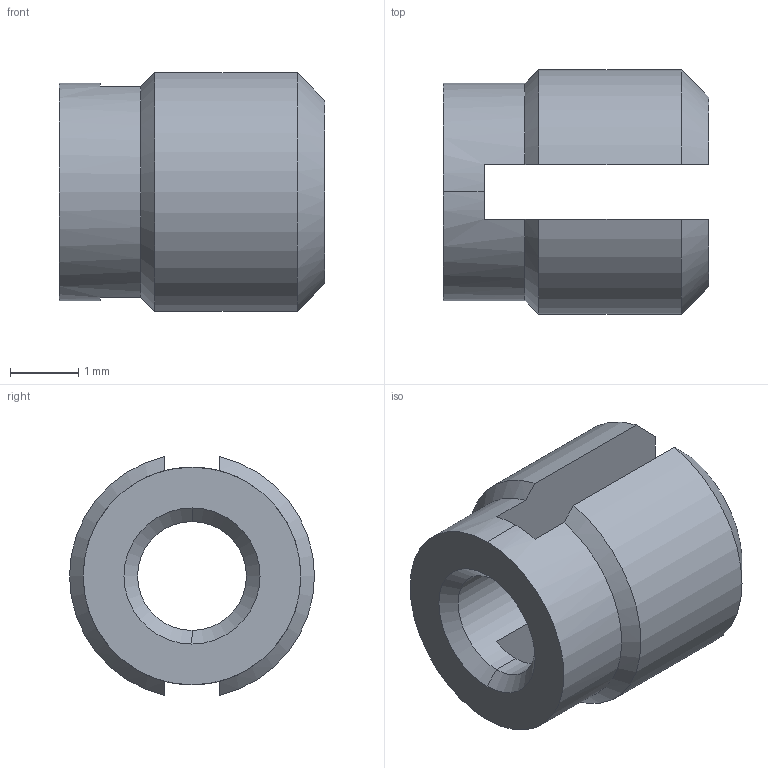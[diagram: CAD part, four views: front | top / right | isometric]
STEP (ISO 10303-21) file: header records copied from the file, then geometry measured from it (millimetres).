
FILE_DESCRIPTION (( 'STEP AP203' ), '1' );
FILE_NAME ('FSUK-EXP-M02-S.STEP', '2021-04-15T13:36:40', ( '' ), ( '' ), 'SwSTEP 2.0', 'SolidWorks 2021', '' );
FILE_SCHEMA (( 'CONFIG_CONTROL_DESIGN' ));
Length unit declared in the file: millimetre
Products named in the file (1): FSUK-EXP-M02-S
Bounding box: 3.9 x 3.6 x 3.51 mm (x, y, z)
Volume: 23 mm3; surface area: 75.5 mm2
Topology: 1 solids, 1 shells, 23 faces, 64 edges, 42 vertices
Faces by surface type: plane 9, cone 8, cylinder 6
Entity records: 841 total; most frequent: CARTESIAN_POINT 166, ORIENTED_EDGE 128, DIRECTION 126, EDGE_CURVE 64, AXIS2_PLACEMENT_3D 50, VERTEX_POINT 42, VECTOR 26, CIRCLE 26
